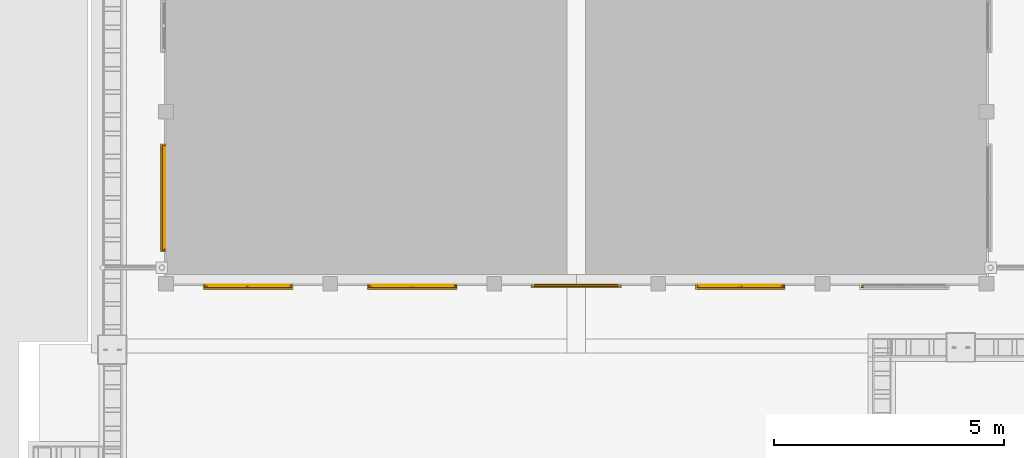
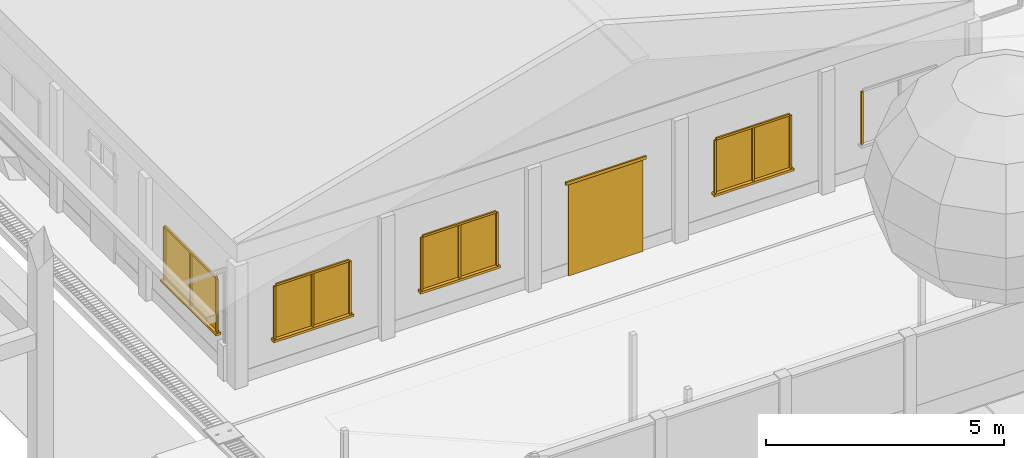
# One storey, part 35 of 166: 25 windows, 2 doors.
"""IFC2X3 building model written with IfcOpenShell, lengths in metres."""

from ifc_helpers import new_model, si_unit, origin, origin_with_axes, place, context, subcontext, project, spatial, faceted_brep, element, save


model = new_model("IFC2X3")

# Units and contexts
model_context = context("Model", 3, precision=1e-05, world=origin_with_axes())
body_context = subcontext(model_context, "Body", "Model", "MODEL_VIEW")
ifc_project = project(units=[si_unit("LENGTHUNIT", "METRE"), si_unit("AREAUNIT", "SQUARE_METRE"), si_unit("VOLUMEUNIT", "CUBIC_METRE"), si_unit("PLANEANGLEUNIT", "RADIAN")], contexts=[model_context])

# Site, building, storey
site_placement = place(None, origin_with_axes())
site = spatial("IfcSite", under=ifc_project, at=site_placement, Name="Predio Los Mangos - Morales, San Martín", CompositionType="ELEMENT")
building_placement = place(site_placement, origin())
building = spatial("IfcBuilding", under=site, at=building_placement, Name="Hogar de Refugio Temporal", CompositionType="ELEMENT")
storey_placement = place(building_placement, origin())
storey = spatial("IfcBuildingStorey", under=building, at=storey_placement, Name="NIVEL 1 (NPT +0.00)", CompositionType="ELEMENT", Elevation=0.0)

# Windows
window_1_placement = place(storey_placement, origin())
element("IfcWindow", 1, at=window_1_placement, inside=storey, Name="E-01_vg0_vid", ObjectType="Ventana", context=body_context, shape_type="Brep", body=[
    faceted_brep([(14.69, 26.26, 1.05), (14.69, 26.28, 1.05), (16.47, 26.28, 1.05), (16.47, 26.26, 1.05), (14.69, 26.26, 2.4), (16.47, 26.26, 2.4), (16.47, 26.28, 2.4), (14.69, 26.28, 2.4)], [[[0, 1, 2, 3]], [[4, 5, 6, 7]], [[0, 3, 5, 4]], [[3, 2, 6, 5]], [[2, 1, 7, 6]], [[1, 0, 4, 7]]]),
])
window_2_placement = place(storey_placement, origin())
element("IfcWindow", 2, at=window_2_placement, inside=storey, Name="E-01_vg0_m", ObjectType="Ventana", context=body_context, shape_type="Brep", body=[
    faceted_brep([(14.64, 26.22, 1.05), (14.64, 26.26, 1.05), (14.69, 26.26, 1.05), (14.69, 26.22, 1.05), (14.64, 26.22, 2.4), (14.69, 26.22, 2.4), (14.69, 26.26, 2.4), (14.64, 26.26, 2.4)], [[[0, 1, 2, 3]], [[4, 5, 6, 7]], [[0, 3, 5, 4]], [[3, 2, 6, 5]], [[2, 1, 7, 6]], [[1, 0, 4, 7]]]),
])
window_3_placement = place(storey_placement, origin())
element("IfcWindow", 3, at=window_3_placement, inside=storey, Name="E-01_vg0_m", ObjectType="Ventana", context=body_context, shape_type="Brep", body=[
    faceted_brep([(16.47, 26.22, 1.05), (16.47, 26.26, 1.05), (16.52, 26.26, 1.05), (16.52, 26.22, 1.05), (16.47, 26.22, 2.4), (16.52, 26.22, 2.4), (16.52, 26.26, 2.4), (16.47, 26.26, 2.4)], [[[0, 1, 2, 3]], [[4, 5, 6, 7]], [[0, 3, 5, 4]], [[3, 2, 6, 5]], [[2, 1, 7, 6]], [[1, 0, 4, 7]]]),
])
window_4_placement = place(storey_placement, origin())
element("IfcWindow", 4, at=window_4_placement, inside=storey, Name="E-01_vg0_m", ObjectType="Ventana", context=body_context, shape_type="Brep", body=[
    faceted_brep([(14.69, 26.22, 2.4), (14.69, 26.26, 2.4), (16.47, 26.26, 2.4), (16.47, 26.22, 2.4), (14.69, 26.22, 2.45), (16.47, 26.22, 2.45), (16.47, 26.26, 2.45), (14.69, 26.26, 2.45)], [[[0, 1, 2, 3]], [[4, 5, 6, 7]], [[0, 3, 5, 4]], [[3, 2, 6, 5]], [[2, 1, 7, 6]], [[1, 0, 4, 7]]]),
])
window_5_placement = place(storey_placement, origin())
element("IfcWindow", 5, at=window_5_placement, inside=storey, Name="E-01_vg0_m", ObjectType="Ventana", context=body_context, shape_type="Brep", body=[
    faceted_brep([(15.555, 26.22, 1.05), (15.555, 26.26, 1.05), (15.605, 26.26, 1.05), (15.605, 26.22, 1.05), (15.555, 26.22, 2.4), (15.605, 26.22, 2.4), (15.605, 26.26, 2.4), (15.555, 26.26, 2.4)], [[[0, 1, 2, 3]], [[4, 5, 6, 7]], [[0, 3, 5, 4]], [[3, 2, 6, 5]], [[2, 1, 7, 6]], [[1, 0, 4, 7]]]),
])
window_6_placement = place(storey_placement, origin())
element("IfcWindow", 6, at=window_6_placement, inside=storey, Name="E-01_vg0_alf", ObjectType="Ventana", context=body_context, shape_type="Brep", body=[
    faceted_brep([(14.61, 26.3, 0.99), (14.61, 26.18, 0.99), (16.55, 26.18, 0.99), (16.55, 26.3, 0.99), (14.61, 26.3, 1.05), (16.55, 26.3, 1.05), (16.55, 26.18, 1.05), (14.61, 26.18, 1.05)], [[[0, 1, 2, 3]], [[4, 5, 6, 7]], [[0, 3, 5, 4]], [[3, 2, 6, 5]], [[2, 1, 7, 6]], [[1, 0, 4, 7]]]),
])
window_7_placement = place(storey_placement, origin())
element("IfcWindow", 7, at=window_7_placement, inside=storey, Name="E-01_vg1_vid", ObjectType="Ventana", context=body_context, shape_type="Brep", body=[
    faceted_brep([(18.25, 26.26, 1.05), (18.25, 26.28, 1.05), (20.03, 26.28, 1.05), (20.03, 26.26, 1.05), (18.25, 26.26, 2.4), (20.03, 26.26, 2.4), (20.03, 26.28, 2.4), (18.25, 26.28, 2.4)], [[[0, 1, 2, 3]], [[4, 5, 6, 7]], [[0, 3, 5, 4]], [[3, 2, 6, 5]], [[2, 1, 7, 6]], [[1, 0, 4, 7]]]),
])
window_8_placement = place(storey_placement, origin())
element("IfcWindow", 8, at=window_8_placement, inside=storey, Name="E-01_vg1_m", ObjectType="Ventana", context=body_context, shape_type="Brep", body=[
    faceted_brep([(18.2, 26.22, 1.05), (18.2, 26.26, 1.05), (18.25, 26.26, 1.05), (18.25, 26.22, 1.05), (18.2, 26.22, 2.4), (18.25, 26.22, 2.4), (18.25, 26.26, 2.4), (18.2, 26.26, 2.4)], [[[0, 1, 2, 3]], [[4, 5, 6, 7]], [[0, 3, 5, 4]], [[3, 2, 6, 5]], [[2, 1, 7, 6]], [[1, 0, 4, 7]]]),
])
window_9_placement = place(storey_placement, origin())
element("IfcWindow", 9, at=window_9_placement, inside=storey, Name="E-01_vg1_m", ObjectType="Ventana", context=body_context, shape_type="Brep", body=[
    faceted_brep([(20.03, 26.22, 1.05), (20.03, 26.26, 1.05), (20.08, 26.26, 1.05), (20.08, 26.22, 1.05), (20.03, 26.22, 2.4), (20.08, 26.22, 2.4), (20.08, 26.26, 2.4), (20.03, 26.26, 2.4)], [[[0, 1, 2, 3]], [[4, 5, 6, 7]], [[0, 3, 5, 4]], [[3, 2, 6, 5]], [[2, 1, 7, 6]], [[1, 0, 4, 7]]]),
])
window_10_placement = place(storey_placement, origin())
element("IfcWindow", 10, at=window_10_placement, inside=storey, Name="E-01_vg1_m", ObjectType="Ventana", context=body_context, shape_type="Brep", body=[
    faceted_brep([(18.25, 26.22, 2.4), (18.25, 26.26, 2.4), (20.03, 26.26, 2.4), (20.03, 26.22, 2.4), (18.25, 26.22, 2.45), (20.03, 26.22, 2.45), (20.03, 26.26, 2.45), (18.25, 26.26, 2.45)], [[[0, 1, 2, 3]], [[4, 5, 6, 7]], [[0, 3, 5, 4]], [[3, 2, 6, 5]], [[2, 1, 7, 6]], [[1, 0, 4, 7]]]),
])
window_11_placement = place(storey_placement, origin())
element("IfcWindow", 11, at=window_11_placement, inside=storey, Name="E-01_vg1_m", ObjectType="Ventana", context=body_context, shape_type="Brep", body=[
    faceted_brep([(19.115, 26.22, 1.05), (19.115, 26.26, 1.05), (19.165, 26.26, 1.05), (19.165, 26.22, 1.05), (19.115, 26.22, 2.4), (19.165, 26.22, 2.4), (19.165, 26.26, 2.4), (19.115, 26.26, 2.4)], [[[0, 1, 2, 3]], [[4, 5, 6, 7]], [[0, 3, 5, 4]], [[3, 2, 6, 5]], [[2, 1, 7, 6]], [[1, 0, 4, 7]]]),
])
window_12_placement = place(storey_placement, origin())
element("IfcWindow", 12, at=window_12_placement, inside=storey, Name="E-01_vg1_alf", ObjectType="Ventana", context=body_context, shape_type="Brep", body=[
    faceted_brep([(18.17, 26.3, 0.99), (18.17, 26.18, 0.99), (20.11, 26.18, 0.99), (20.11, 26.3, 0.99), (18.17, 26.3, 1.05), (20.11, 26.3, 1.05), (20.11, 26.18, 1.05), (18.17, 26.18, 1.05)], [[[0, 1, 2, 3]], [[4, 5, 6, 7]], [[0, 3, 5, 4]], [[3, 2, 6, 5]], [[2, 1, 7, 6]], [[1, 0, 4, 7]]]),
])

# Doors
door_1_placement = place(storey_placement, origin())
element("IfcDoor", 13, at=door_1_placement, inside=storey, Name="E-01_pp", ObjectType="Puerta", context=body_context, shape_type="Brep", body=[
    faceted_brep([(21.8, 26.25, 0.15), (21.8, 26.29, 0.15), (23.6, 26.29, 0.15), (23.6, 26.25, 0.15), (21.8, 26.25, 2.5), (23.6, 26.25, 2.5), (23.6, 26.29, 2.5), (21.8, 26.29, 2.5)], [[[0, 1, 2, 3]], [[4, 5, 6, 7]], [[0, 3, 5, 4]], [[3, 2, 6, 5]], [[2, 1, 7, 6]], [[1, 0, 4, 7]]]),
])
door_2_placement = place(storey_placement, origin())
element("IfcDoor", 14, at=door_2_placement, inside=storey, Name="E-01_pp_marco", ObjectType="Puerta", context=body_context, shape_type="Brep", body=[
    faceted_brep([(21.72, 26.23, 2.5), (21.72, 26.27, 2.5), (23.68, 26.27, 2.5), (23.68, 26.23, 2.5), (21.72, 26.23, 2.58), (23.68, 26.23, 2.58), (23.68, 26.27, 2.58), (21.72, 26.27, 2.58)], [[[0, 1, 2, 3]], [[4, 5, 6, 7]], [[0, 3, 5, 4]], [[3, 2, 6, 5]], [[2, 1, 7, 6]], [[1, 0, 4, 7]]]),
])

# Windows
window_13_placement = place(storey_placement, origin())
element("IfcWindow", 15, at=window_13_placement, inside=storey, Name="E-01_vg3_vid", ObjectType="Ventana", context=body_context, shape_type="Brep", body=[
    faceted_brep([(25.37, 26.26, 1.05), (25.37, 26.28, 1.05), (27.15, 26.28, 1.05), (27.15, 26.26, 1.05), (25.37, 26.26, 2.4), (27.15, 26.26, 2.4), (27.15, 26.28, 2.4), (25.37, 26.28, 2.4)], [[[0, 1, 2, 3]], [[4, 5, 6, 7]], [[0, 3, 5, 4]], [[3, 2, 6, 5]], [[2, 1, 7, 6]], [[1, 0, 4, 7]]]),
])
window_14_placement = place(storey_placement, origin())
element("IfcWindow", 16, at=window_14_placement, inside=storey, Name="E-01_vg3_m", ObjectType="Ventana", context=body_context, shape_type="Brep", body=[
    faceted_brep([(25.32, 26.22, 1.05), (25.32, 26.26, 1.05), (25.37, 26.26, 1.05), (25.37, 26.22, 1.05), (25.32, 26.22, 2.4), (25.37, 26.22, 2.4), (25.37, 26.26, 2.4), (25.32, 26.26, 2.4)], [[[0, 1, 2, 3]], [[4, 5, 6, 7]], [[0, 3, 5, 4]], [[3, 2, 6, 5]], [[2, 1, 7, 6]], [[1, 0, 4, 7]]]),
])
window_15_placement = place(storey_placement, origin())
element("IfcWindow", 17, at=window_15_placement, inside=storey, Name="E-01_vg3_m", ObjectType="Ventana", context=body_context, shape_type="Brep", body=[
    faceted_brep([(27.15, 26.22, 1.05), (27.15, 26.26, 1.05), (27.2, 26.26, 1.05), (27.2, 26.22, 1.05), (27.15, 26.22, 2.4), (27.2, 26.22, 2.4), (27.2, 26.26, 2.4), (27.15, 26.26, 2.4)], [[[0, 1, 2, 3]], [[4, 5, 6, 7]], [[0, 3, 5, 4]], [[3, 2, 6, 5]], [[2, 1, 7, 6]], [[1, 0, 4, 7]]]),
])
window_16_placement = place(storey_placement, origin())
element("IfcWindow", 18, at=window_16_placement, inside=storey, Name="E-01_vg3_m", ObjectType="Ventana", context=body_context, shape_type="Brep", body=[
    faceted_brep([(25.37, 26.22, 2.4), (25.37, 26.26, 2.4), (27.15, 26.26, 2.4), (27.15, 26.22, 2.4), (25.37, 26.22, 2.45), (27.15, 26.22, 2.45), (27.15, 26.26, 2.45), (25.37, 26.26, 2.45)], [[[0, 1, 2, 3]], [[4, 5, 6, 7]], [[0, 3, 5, 4]], [[3, 2, 6, 5]], [[2, 1, 7, 6]], [[1, 0, 4, 7]]]),
])
window_17_placement = place(storey_placement, origin())
element("IfcWindow", 19, at=window_17_placement, inside=storey, Name="E-01_vg3_m", ObjectType="Ventana", context=body_context, shape_type="Brep", body=[
    faceted_brep([(26.235, 26.22, 1.05), (26.235, 26.26, 1.05), (26.285, 26.26, 1.05), (26.285, 26.22, 1.05), (26.235, 26.22, 2.4), (26.285, 26.22, 2.4), (26.285, 26.26, 2.4), (26.235, 26.26, 2.4)], [[[0, 1, 2, 3]], [[4, 5, 6, 7]], [[0, 3, 5, 4]], [[3, 2, 6, 5]], [[2, 1, 7, 6]], [[1, 0, 4, 7]]]),
])
window_18_placement = place(storey_placement, origin())
element("IfcWindow", 20, at=window_18_placement, inside=storey, Name="E-01_vg3_alf", ObjectType="Ventana", context=body_context, shape_type="Brep", body=[
    faceted_brep([(25.29, 26.3, 0.99), (25.29, 26.18, 0.99), (27.23, 26.18, 0.99), (27.23, 26.3, 0.99), (25.29, 26.3, 1.05), (27.23, 26.3, 1.05), (27.23, 26.18, 1.05), (25.29, 26.18, 1.05)], [[[0, 1, 2, 3]], [[4, 5, 6, 7]], [[0, 3, 5, 4]], [[3, 2, 6, 5]], [[2, 1, 7, 6]], [[1, 0, 4, 7]]]),
])
window_19_placement = place(storey_placement, origin())
element("IfcWindow", 21, at=window_19_placement, inside=storey, Name="E-01_vg4_m", ObjectType="Ventana", context=body_context, shape_type="Brep", body=[
    faceted_brep([(28.88, 26.22, 1.05), (28.88, 26.26, 1.05), (28.93, 26.26, 1.05), (28.93, 26.22, 1.05), (28.88, 26.22, 2.4), (28.93, 26.22, 2.4), (28.93, 26.26, 2.4), (28.88, 26.26, 2.4)], [[[0, 1, 2, 3]], [[4, 5, 6, 7]], [[0, 3, 5, 4]], [[3, 2, 6, 5]], [[2, 1, 7, 6]], [[1, 0, 4, 7]]]),
])
window_20_placement = place(storey_placement, origin())
element("IfcWindow", 22, at=window_20_placement, inside=storey, Name="E-01_v0_vid", ObjectType="Ventana", context=body_context, shape_type="Brep", body=[
    faceted_brep([(13.76, 27.084, 1.05), (13.76, 29.2493, 1.05), (13.78, 29.2493, 1.05), (13.78, 27.084, 1.05), (13.76, 27.084, 2.4), (13.78, 27.084, 2.4), (13.78, 29.2493, 2.4), (13.76, 29.2493, 2.4)], [[[0, 1, 2, 3]], [[4, 5, 6, 7]], [[0, 3, 5, 4]], [[3, 2, 6, 5]], [[2, 1, 7, 6]], [[1, 0, 4, 7]]]),
])
window_21_placement = place(storey_placement, origin())
element("IfcWindow", 23, at=window_21_placement, inside=storey, Name="E-01_v0_m", ObjectType="Ventana", context=body_context, shape_type="Brep", body=[
    faceted_brep([(13.72, 27.034, 1.05), (13.72, 27.084, 1.05), (13.76, 27.084, 1.05), (13.76, 27.034, 1.05), (13.72, 27.034, 2.4), (13.76, 27.034, 2.4), (13.76, 27.084, 2.4), (13.72, 27.084, 2.4)], [[[0, 1, 2, 3]], [[4, 5, 6, 7]], [[0, 3, 5, 4]], [[3, 2, 6, 5]], [[2, 1, 7, 6]], [[1, 0, 4, 7]]]),
])
window_22_placement = place(storey_placement, origin())
element("IfcWindow", 24, at=window_22_placement, inside=storey, Name="E-01_v0_m", ObjectType="Ventana", context=body_context, shape_type="Brep", body=[
    faceted_brep([(13.72, 29.2493, 1.05), (13.72, 29.2993, 1.05), (13.76, 29.2993, 1.05), (13.76, 29.2493, 1.05), (13.72, 29.2493, 2.4), (13.76, 29.2493, 2.4), (13.76, 29.2993, 2.4), (13.72, 29.2993, 2.4)], [[[0, 1, 2, 3]], [[4, 5, 6, 7]], [[0, 3, 5, 4]], [[3, 2, 6, 5]], [[2, 1, 7, 6]], [[1, 0, 4, 7]]]),
])
window_23_placement = place(storey_placement, origin())
element("IfcWindow", 25, at=window_23_placement, inside=storey, Name="E-01_v0_m", ObjectType="Ventana", context=body_context, shape_type="Brep", body=[
    faceted_brep([(13.72, 27.084, 2.4), (13.72, 29.2493, 2.4), (13.76, 29.2493, 2.4), (13.76, 27.084, 2.4), (13.72, 27.084, 2.45), (13.76, 27.084, 2.45), (13.76, 29.2493, 2.45), (13.72, 29.2493, 2.45)], [[[0, 1, 2, 3]], [[4, 5, 6, 7]], [[0, 3, 5, 4]], [[3, 2, 6, 5]], [[2, 1, 7, 6]], [[1, 0, 4, 7]]]),
])
window_24_placement = place(storey_placement, origin())
element("IfcWindow", 26, at=window_24_placement, inside=storey, Name="E-01_v0_m", ObjectType="Ventana", context=body_context, shape_type="Brep", body=[
    faceted_brep([(13.72, 28.1417, 1.05), (13.72, 28.1917, 1.05), (13.76, 28.1917, 1.05), (13.76, 28.1417, 1.05), (13.72, 28.1417, 2.4), (13.76, 28.1417, 2.4), (13.76, 28.1917, 2.4), (13.72, 28.1917, 2.4)], [[[0, 1, 2, 3]], [[4, 5, 6, 7]], [[0, 3, 5, 4]], [[3, 2, 6, 5]], [[2, 1, 7, 6]], [[1, 0, 4, 7]]]),
])
window_25_placement = place(storey_placement, origin())
element("IfcWindow", 27, at=window_25_placement, inside=storey, Name="E-01_v0_alf", ObjectType="Ventana", context=body_context, shape_type="Brep", body=[
    faceted_brep([(13.8, 27.004, 0.99), (13.8, 29.3293, 0.99), (13.68, 29.3293, 0.99), (13.68, 27.004, 0.99), (13.8, 27.004, 1.05), (13.68, 27.004, 1.05), (13.68, 29.3293, 1.05), (13.8, 29.3293, 1.05)], [[[0, 1, 2, 3]], [[4, 5, 6, 7]], [[0, 3, 5, 4]], [[3, 2, 6, 5]], [[2, 1, 7, 6]], [[1, 0, 4, 7]]]),
])

save(model, "model.ifc")
